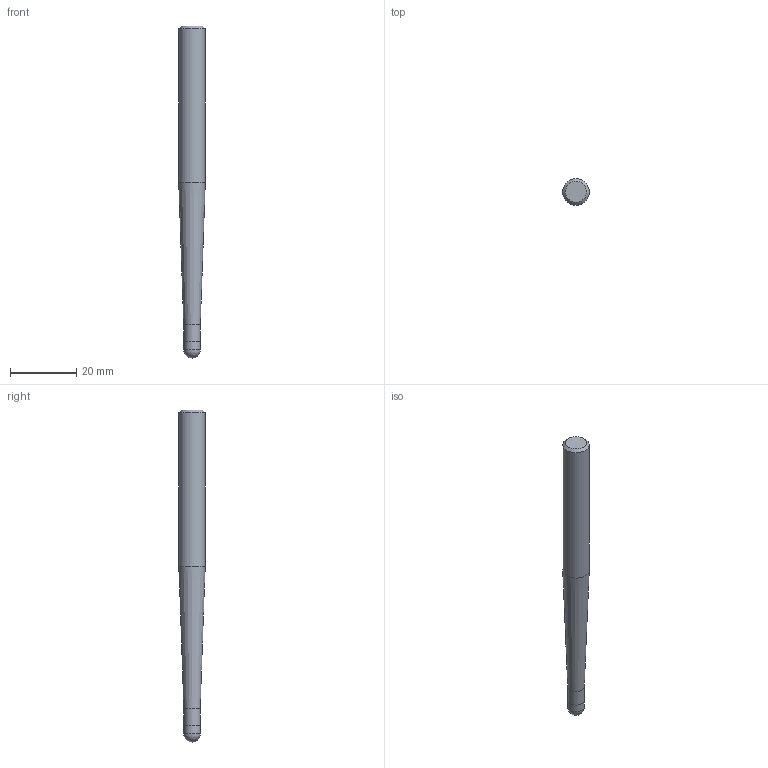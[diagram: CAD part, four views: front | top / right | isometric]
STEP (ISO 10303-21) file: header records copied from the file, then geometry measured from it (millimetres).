
FILE_DESCRIPTION((''),'2;1');
FILE_NAME('C:\Users\nsx150\AppData\Local\Temp\Mastercam 2021\SNAKH10GOD\TEMP.step','2021-10-21T13:33:53',(''),(''),'STEP Write','Mastercam 2021 ... CNC Software, Inc.','');
FILE_SCHEMA(('AUTOMOTIVE_DESIGN'));
Length unit declared in the file: millimetre
Products named in the file (1): None
Bounding box: 8 x 8 x 100 mm (x, y, z)
Volume: 3984 mm3; surface area: 2292.5 mm2
Topology: 2 solids, 2 shells, 9 faces, 14 edges, 8 vertices
Faces by surface type: plane 3, cylinder 3, cone 2, sphere 1
Full cylindrical faces by diameter (mm): 4.98 x1, 5 x1, 8 x1
Entity records: 211 total; most frequent: DIRECTION 36, CARTESIAN_POINT 25, AXIS2_PLACEMENT_3D 18, ORIENTED_EDGE 14, EDGE_LOOP 14, STYLED_ITEM 12, ADVANCED_FACE 9, FACE_BOUND 8
